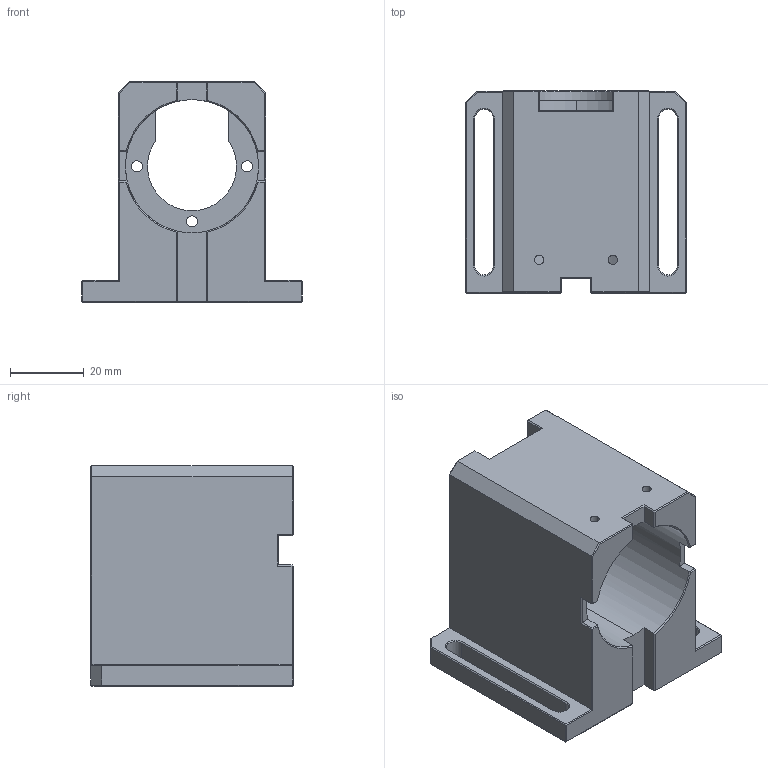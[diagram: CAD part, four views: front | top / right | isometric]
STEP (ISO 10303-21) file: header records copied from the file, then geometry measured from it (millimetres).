
FILE_DESCRIPTION (( 'STEP AP214' ), '1' );
FILE_NAME ('錨璃1.STEP', '2026-10-12T06:00:44', ( '' ), ( '' ), 'SwSTEP 2.0', 'SolidWorks 2024', '' );
FILE_SCHEMA (( 'AUTOMOTIVE_DESIGN' ));
Length unit declared in the file: millimetre
Products named in the file (1): 零件1
Bounding box: 60 x 55 x 60 mm (x, y, z)
Volume: 61454 mm3; surface area: 24863.5 mm2
Topology: 1 solids, 1 shells, 154 faces, 361 edges, 208 vertices
Faces by surface type: plane 120, cylinder 21, cone 13
Entity records: 4377 total; most frequent: CARTESIAN_POINT 832, ORIENTED_EDGE 722, DIRECTION 718, EDGE_CURVE 361, LINE 286, VECTOR 286, AXIS2_PLACEMENT_3D 216, VERTEX_POINT 208
